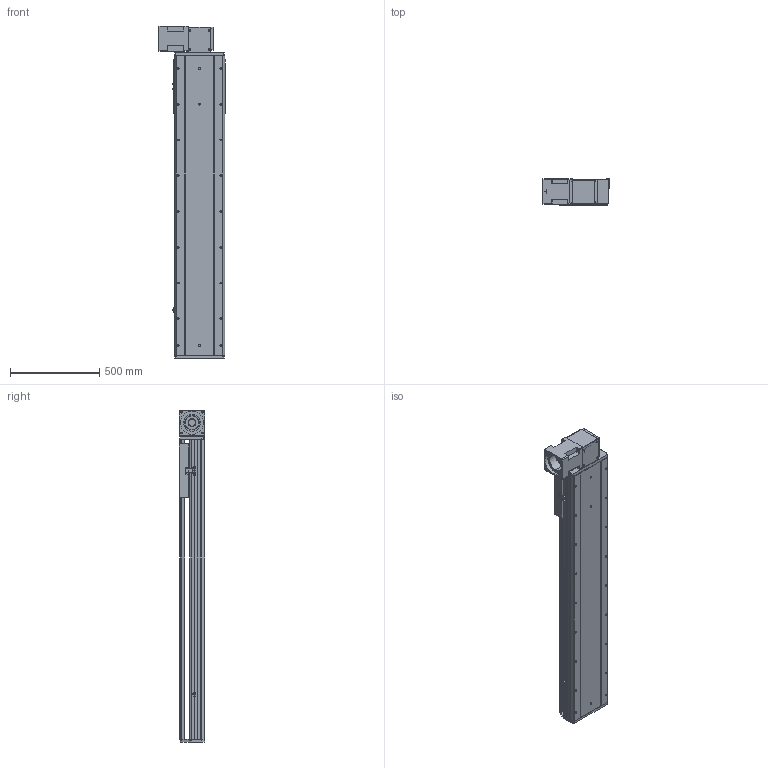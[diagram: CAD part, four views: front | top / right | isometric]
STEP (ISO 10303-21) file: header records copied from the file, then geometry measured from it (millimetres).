
FILE_DESCRIPTION (( 'STEP AP214' ), '1' );
FILE_NAME ('RTB28R-XX-1250-BR-M100-XX-C4.STEP', '2025-12-22T01:12:01', ( '' ), ( '' ), 'SwSTEP 2.0', 'SolidWorks 2018', '' );
FILE_SCHEMA (( 'AUTOMOTIVE_DESIGN' ));
Length unit declared in the file: millimetre
Products named in the file (4): RTB28S-GY-004^RTB28R-XX-XX-BR-M100-XX-C4; RTB28R-XX-1250-BR-M100-XX-C4; RTB28S-GY-008^RTB28R-XX-XX-BR-M100-XX-C4; RTB28S-GY-011^RTB28R-XX-XX-BR-M100-XX-C4
Assembly tree (3 placements, depth 2):
  RTB28R-XX-1250-BR-M100-XX-C4
    RTB28S-GY-011^RTB28R-XX-XX-BR-M100-XX-C4
    RTB28S-GY-004^RTB28R-XX-XX-BR-M100-XX-C4
    RTB28S-GY-008^RTB28R-XX-XX-BR-M100-XX-C4
Bounding box: 370 x 145 x 1857 mm (x, y, z)
Volume: 33552688.7 mm3; surface area: 3216357.1 mm2
Topology: 3 solids, 4 shells, 998 faces, 2640 edges, 1696 vertices
Faces by surface type: plane 458, cylinder 369, bspline 87, cone 80, torus 4
Entity records: 42688 total; most frequent: CARTESIAN_POINT 11395, ORIENTED_EDGE 5216, DIRECTION 5064, EDGE_CURVE 2608, AXIS2_PLACEMENT_3D 1741, VERTEX_POINT 1696, LINE 1582, VECTOR 1582
